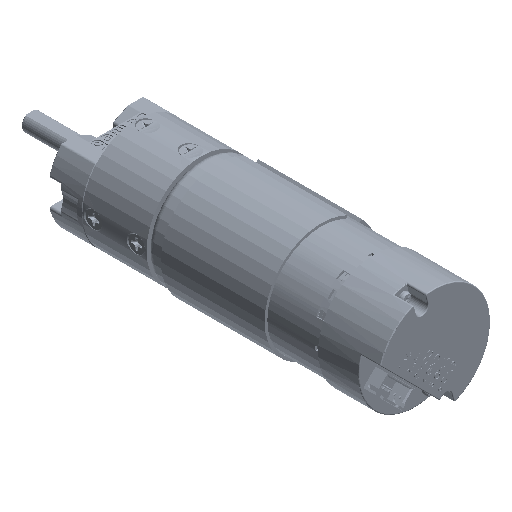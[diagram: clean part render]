
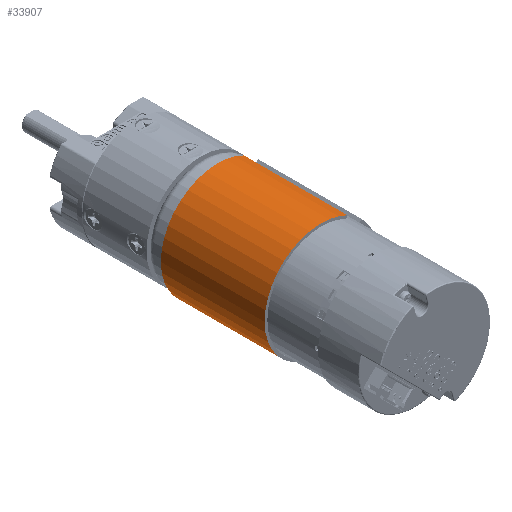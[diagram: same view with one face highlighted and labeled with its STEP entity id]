
A CAD part, isometric view. The second image highlights one B-rep face of the part: STEP entity #33907.
In plain terms, the highlighted cylindrical face has radius 18.75 mm (diameter 37.5 mm), a partial arc.
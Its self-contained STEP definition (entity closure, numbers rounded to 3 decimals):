
#1653=CYLINDRICAL_SURFACE('',#36224,18.75);
#2454=FACE_OUTER_BOUND('',#4492,.T.);
#4492=EDGE_LOOP('',(#23448,#23449,#23450,#23451));
#6676=CIRCLE('',#36225,18.75);
#6677=CIRCLE('',#36226,18.75);
#9331=LINE('',#55588,#11848);
#9332=LINE('',#55591,#11849);
#11848=VECTOR('',#39255,1000.);
#11849=VECTOR('',#39258,1000.);
#14427=VERTEX_POINT('',#55584);
#14428=VERTEX_POINT('',#55585);
#14429=VERTEX_POINT('',#55587);
#14430=VERTEX_POINT('',#55589);
#17940=EDGE_CURVE('',#14427,#14428,#6676,.T.);
#17941=EDGE_CURVE('',#14427,#14429,#9331,.T.);
#17942=EDGE_CURVE('',#14429,#14430,#6677,.T.);
#17943=EDGE_CURVE('',#14428,#14430,#9332,.T.);
#23448=ORIENTED_EDGE('',*,*,#17940,.F.);
#23449=ORIENTED_EDGE('',*,*,#17941,.T.);
#23450=ORIENTED_EDGE('',*,*,#17942,.T.);
#23451=ORIENTED_EDGE('',*,*,#17943,.F.);
#33907=ADVANCED_FACE('',(#2454),#1653,.T.);
#36224=AXIS2_PLACEMENT_3D('',#55583,#39251,#39252);
#36225=AXIS2_PLACEMENT_3D('',#55586,#39253,#39254);
#36226=AXIS2_PLACEMENT_3D('',#55590,#39256,#39257);
#39251=DIRECTION('center_axis',(0.,0.,-1.));
#39252=DIRECTION('ref_axis',(0.,-1.,0.));
#39253=DIRECTION('center_axis',(0.,0.,1.));
#39254=DIRECTION('ref_axis',(1.,0.,0.));
#39255=DIRECTION('',(0.,0.,-1.));
#39256=DIRECTION('center_axis',(0.,0.,1.));
#39257=DIRECTION('ref_axis',(1.,0.,0.));
#39258=DIRECTION('',(0.,0.,-1.));
#55583=CARTESIAN_POINT('Origin',(0.,0.,34.15));
#55584=CARTESIAN_POINT('',(-2.904,18.524,34.15));
#55585=CARTESIAN_POINT('',(2.904,18.524,34.15));
#55586=CARTESIAN_POINT('Origin',(0.,0.,34.15));
#55587=CARTESIAN_POINT('',(-2.904,18.524,0.));
#55588=CARTESIAN_POINT('',(-2.904,18.524,34.15));
#55589=CARTESIAN_POINT('',(2.904,18.524,0.));
#55590=CARTESIAN_POINT('Origin',(0.,0.,0.));
#55591=CARTESIAN_POINT('',(2.904,18.524,34.15));
